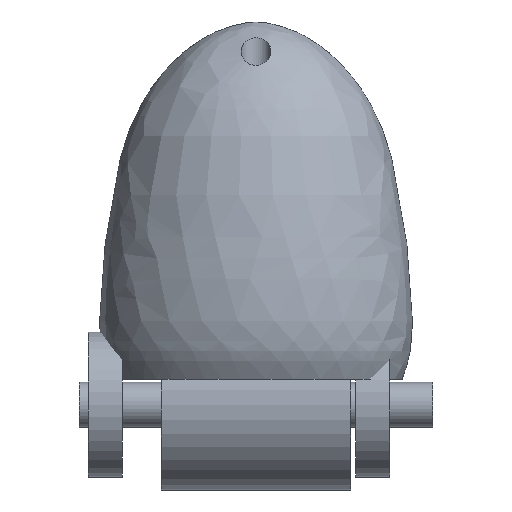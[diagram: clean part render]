
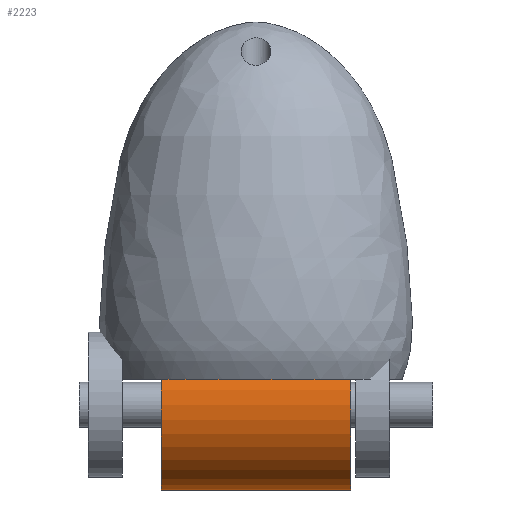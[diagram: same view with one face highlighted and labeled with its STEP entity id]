
A CAD part, left-side view. The second image highlights one B-rep face of the part: STEP entity #2223.
In plain terms, the highlighted cylindrical face has radius 4 mm (diameter 8 mm), a full revolution.
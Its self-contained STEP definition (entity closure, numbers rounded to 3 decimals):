
#2223 = ADVANCED_FACE('',(#2224),#2251,.T.);
#2224 = FACE_BOUND('',#2225,.T.);
#2225 = EDGE_LOOP('',(#2226,#2235,#2243,#2250));
#2226 = ORIENTED_EDGE('',*,*,#2227,.F.);
#2227 = EDGE_CURVE('',#2228,#2228,#2230,.T.);
#2228 = VERTEX_POINT('',#2229);
#2229 = CARTESIAN_POINT('',(0.,4.452,4.));
#2230 = CIRCLE('',#2231,4.);
#2231 = AXIS2_PLACEMENT_3D('',#2232,#2233,#2234);
#2232 = CARTESIAN_POINT('',(0.,4.452,0.));
#2233 = DIRECTION('',(0.,1.,0.));
#2234 = DIRECTION('',(0.,-0.,1.));
#2235 = ORIENTED_EDGE('',*,*,#2236,.F.);
#2236 = EDGE_CURVE('',#2237,#2228,#2239,.T.);
#2237 = VERTEX_POINT('',#2238);
#2238 = CARTESIAN_POINT('',(0.,-4.452,4.));
#2239 = LINE('',#2240,#2241);
#2240 = CARTESIAN_POINT('',(0.,-4.452,4.));
#2241 = VECTOR('',#2242,1.);
#2242 = DIRECTION('',(0.,1.,0.));
#2243 = ORIENTED_EDGE('',*,*,#2244,.T.);
#2244 = EDGE_CURVE('',#2237,#2237,#2245,.T.);
#2245 = CIRCLE('',#2246,4.);
#2246 = AXIS2_PLACEMENT_3D('',#2247,#2248,#2249);
#2247 = CARTESIAN_POINT('',(0.,-4.452,0.));
#2248 = DIRECTION('',(0.,1.,0.));
#2249 = DIRECTION('',(0.,-0.,1.));
#2250 = ORIENTED_EDGE('',*,*,#2236,.T.);
#2251 = CYLINDRICAL_SURFACE('',#2252,4.);
#2252 = AXIS2_PLACEMENT_3D('',#2253,#2254,#2255);
#2253 = CARTESIAN_POINT('',(0.,-4.452,0.));
#2254 = DIRECTION('',(0.,1.,0.));
#2255 = DIRECTION('',(0.,-0.,1.));
